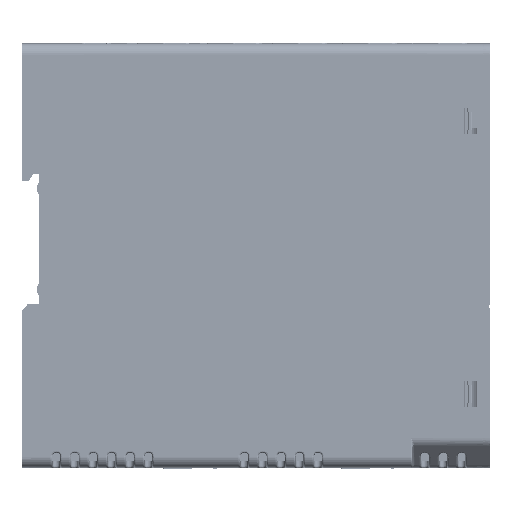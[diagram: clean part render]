
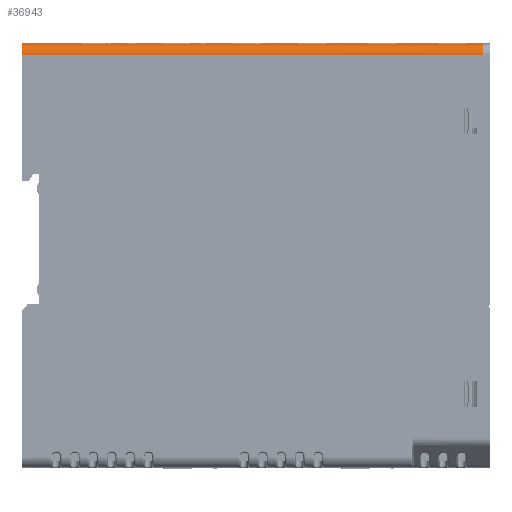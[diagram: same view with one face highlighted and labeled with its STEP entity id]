
A CAD part, front view. The second image highlights one B-rep face of the part: STEP entity #36943.
In plain terms, the highlighted cylindrical face has radius 3 mm (diameter 6 mm), a partial arc.
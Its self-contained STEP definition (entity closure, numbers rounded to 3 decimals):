
#36943=ADVANCED_FACE('',(#133208),#133210,.T.);
#133208=FACE_BOUND('',#133209,.T.);
#133209=EDGE_LOOP('',(#261828,#261829,#261830,#261831));
#133210=CYLINDRICAL_SURFACE('',#133211,3.);
#133211=AXIS2_PLACEMENT_3D('',#133212,#133213,#133214);
#133212=CARTESIAN_POINT('',(62.5,-10.5,50.041));
#133213=DIRECTION('',(1.,0.,0.));
#133214=DIRECTION('',(0.,-0.009,1.));
#261828=ORIENTED_EDGE('',*,*,#324734,.F.);
#261829=ORIENTED_EDGE('',*,*,#324803,.T.);
#261830=ORIENTED_EDGE('',*,*,#324804,.T.);
#261831=ORIENTED_EDGE('',*,*,#324805,.T.);
#324734=EDGE_CURVE('',#357372,#357374,#357375,.F.);
#324803=EDGE_CURVE('',#357372,#357498,#357499,.F.);
#324804=EDGE_CURVE('',#357498,#357500,#357501,.F.);
#324805=EDGE_CURVE('',#357500,#357374,#357502,.T.);
#357372=VERTEX_POINT('',#408923);
#357374=VERTEX_POINT('',#408927);
#357375=LINE('',#408928,#408929);
#357498=VERTEX_POINT('',#409225);
#357499=(BOUNDED_CURVE()B_SPLINE_CURVE(3,
(#409226,#409227,#409228,#409229),
.UNSPECIFIED.,.F.,.F.)B_SPLINE_CURVE_WITH_KNOTS((4,4),
(0.,1.),
.UNSPECIFIED.)CURVE()GEOMETRIC_REPRESENTATION_ITEM()RATIONAL_B_SPLINE_CURVE((1.,
0.807,0.807,1.))REPRESENTATION_ITEM(''));
#357500=VERTEX_POINT('',#409230);
#357501=LINE('',#409231,#409232);
#357502=CIRCLE('',#409234,3.);
#408923=CARTESIAN_POINT('',(125.,-13.5,50.041));
#408927=CARTESIAN_POINT('',(0.,-13.5,50.041));
#408928=CARTESIAN_POINT('',(0.,-13.5,50.041));
#408929=VECTOR('',#408930,1.);
#408930=DIRECTION('',(1.,0.,0.));
#409225=CARTESIAN_POINT('',(124.974,-10.526,53.041));
#409226=CARTESIAN_POINT('',(124.974,-10.526,53.041));
#409227=CARTESIAN_POINT('',(124.989,-12.271,53.025));
#409228=CARTESIAN_POINT('',(125.,-13.5,51.786));
#409229=CARTESIAN_POINT('',(125.,-13.5,50.041));
#409230=CARTESIAN_POINT('',(0.,-10.526,53.041));
#409231=CARTESIAN_POINT('',(0.,-10.526,53.041));
#409232=VECTOR('',#409233,1.);
#409233=DIRECTION('',(1.,0.,0.));
#409234=AXIS2_PLACEMENT_3D('',#409235,#409236,#409237);
#409235=CARTESIAN_POINT('',(0.,-10.5,50.041));
#409236=DIRECTION('',(1.,0.,0.));
#409237=DIRECTION('',(0.,-0.009,1.));
